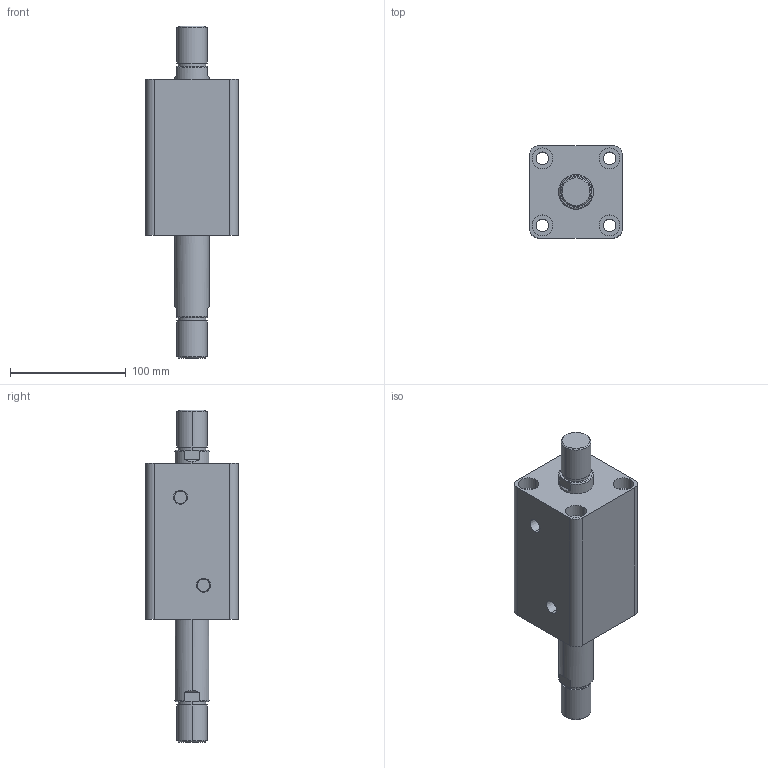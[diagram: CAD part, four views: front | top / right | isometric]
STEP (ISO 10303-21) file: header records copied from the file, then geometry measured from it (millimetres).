
FILE_DESCRIPTION (( 'STEP AP203' ), '1' );
FILE_NAME ('HTB-SW50-60W.STEP', '2019-10-07T09:22:39', ( '微软用户' ), ( '微软中国' ), 'SwSTEP 2.0', 'SolidWorks 2012', '' );
FILE_SCHEMA (( 'CONFIG_CONTROL_DESIGN' ));
Length unit declared in the file: millimetre
Products named in the file (3): HTB-SW50-60W; HTB-SW50-60W活塞杆; HTB-SW50-60掛极
Assembly tree (2 placements, depth 2):
  HTB-SW50-60W
    HTB-SW50-60掛极
    HTB-SW50-60W活塞杆
Bounding box: 80 x 80 x 287 mm (x, y, z)
Volume: 807870.7 mm3; surface area: 124951.7 mm2
Topology: 2 solids, 2 shells, 108 faces, 240 edges, 156 vertices
Faces by surface type: cylinder 52, plane 36, torus 12, cone 8
Entity records: 3449 total; most frequent: CARTESIAN_POINT 629, DIRECTION 586, ORIENTED_EDGE 480, AXIS2_PLACEMENT_3D 249, EDGE_CURVE 240, VERTEX_POINT 156, EDGE_LOOP 138, CIRCLE 136
